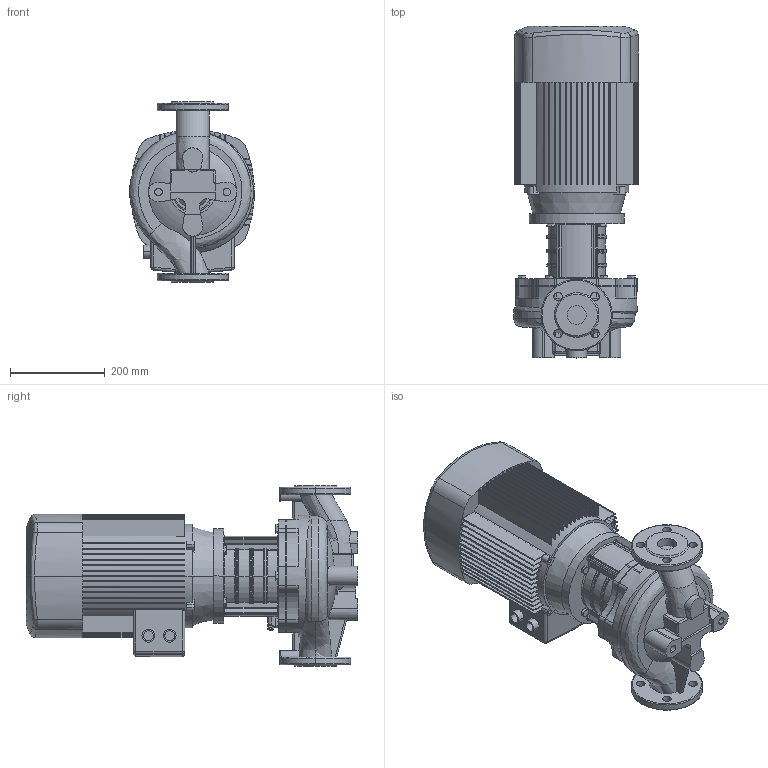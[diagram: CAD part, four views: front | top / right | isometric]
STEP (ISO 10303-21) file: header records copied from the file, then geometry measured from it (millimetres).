
FILE_DESCRIPTION (( 'STEP AP203' ), '1' );
FILE_NAME ('TD40-36G／2.STEP', '2026-09-07T01:52:17', ( '' ), ( '' ), 'SwSTEP 2.0', 'SolidWorks 2020', '' );
FILE_SCHEMA (( 'CONFIG_CONTROL_DESIGN' ));
Length unit declared in the file: millimetre
Products named in the file (1): TD40-36Gㄞ2
Bounding box: 262.75 x 699 x 380 mm (x, y, z)
Volume: 28275174.2 mm3; surface area: 1371395 mm2
Topology: 1 solids, 14 shells, 1321 faces, 3451 edges, 2142 vertices
Faces by surface type: plane 652, cylinder 358, cone 111, torus 109, sphere 50, bspline 41
Entity records: 51141 total; most frequent: CARTESIAN_POINT 18880, ORIENTED_EDGE 6814, DIRECTION 6797, EDGE_CURVE 3407, AXIS2_PLACEMENT_3D 2556, VERTEX_POINT 2134, VECTOR 1685, LINE 1685
